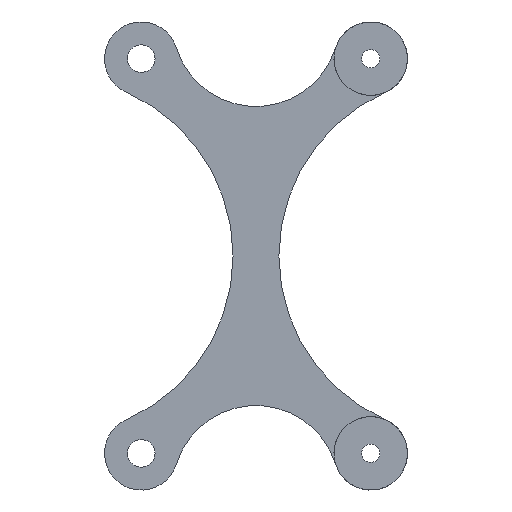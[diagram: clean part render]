
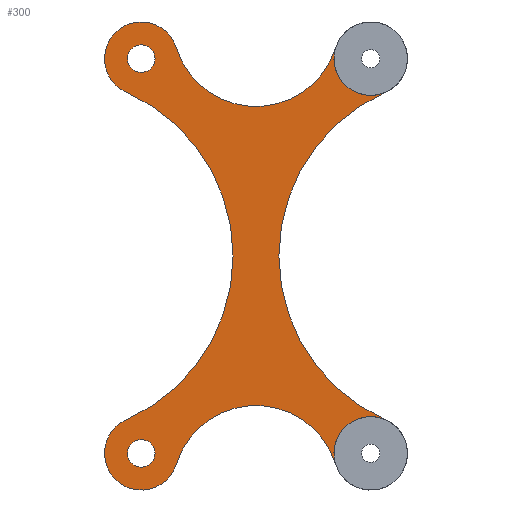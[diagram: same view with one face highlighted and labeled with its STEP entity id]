
A CAD part, front view. The second image highlights one B-rep face of the part: STEP entity #300.
In plain terms, the highlighted planar face has unit normal (0, -1, 0).
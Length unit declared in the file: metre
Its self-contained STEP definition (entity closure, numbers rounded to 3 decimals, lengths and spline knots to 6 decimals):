
#28=PLANE('',#337);
#38=ORIENTED_EDGE('',*,*,#114,.F.);
#39=ORIENTED_EDGE('',*,*,#115,.T.);
#40=ORIENTED_EDGE('',*,*,#116,.F.);
#41=ORIENTED_EDGE('',*,*,#117,.T.);
#42=ORIENTED_EDGE('',*,*,#118,.F.);
#43=ORIENTED_EDGE('',*,*,#119,.T.);
#44=ORIENTED_EDGE('',*,*,#120,.F.);
#45=ORIENTED_EDGE('',*,*,#121,.F.);
#46=ORIENTED_EDGE('',*,*,#122,.T.);
#47=ORIENTED_EDGE('',*,*,#123,.F.);
#114=EDGE_CURVE('',#152,#152,#182,.T.);
#115=EDGE_CURVE('',#153,#153,#183,.T.);
#116=EDGE_CURVE('',#154,#155,#184,.T.);
#117=EDGE_CURVE('',#154,#156,#185,.T.);
#118=EDGE_CURVE('',#157,#156,#186,.T.);
#119=EDGE_CURVE('',#157,#158,#187,.T.);
#120=EDGE_CURVE('',#159,#158,#188,.T.);
#121=EDGE_CURVE('',#160,#159,#189,.T.);
#122=EDGE_CURVE('',#160,#161,#190,.T.);
#123=EDGE_CURVE('',#155,#161,#191,.T.);
#152=VERTEX_POINT('',#504);
#153=VERTEX_POINT('',#506);
#154=VERTEX_POINT('',#508);
#155=VERTEX_POINT('',#509);
#156=VERTEX_POINT('',#511);
#157=VERTEX_POINT('',#513);
#158=VERTEX_POINT('',#515);
#159=VERTEX_POINT('',#517);
#160=VERTEX_POINT('',#519);
#161=VERTEX_POINT('',#521);
#182=CIRCLE('',#338,0.0015);
#183=CIRCLE('',#339,0.0015);
#184=CIRCLE('',#340,0.019509);
#185=CIRCLE('',#341,0.004);
#186=CIRCLE('',#342,0.009091);
#187=CIRCLE('',#343,0.004);
#188=CIRCLE('',#344,0.019509);
#189=CIRCLE('',#345,0.004);
#190=CIRCLE('',#346,0.009091);
#191=CIRCLE('',#347,0.004);
#212=EDGE_LOOP('',(#38));
#213=EDGE_LOOP('',(#39));
#214=EDGE_LOOP('',(#40,#41,#42,#43,#44,#45,#46,#47));
#250=FACE_BOUND('',#212,.T.);
#251=FACE_BOUND('',#213,.T.);
#252=FACE_BOUND('',#214,.T.);
#300=ADVANCED_FACE('',(#250,#251,#252),#28,.T.);
#337=AXIS2_PLACEMENT_3D('',#502,#395,#396);
#338=AXIS2_PLACEMENT_3D('',#503,#397,#398);
#339=AXIS2_PLACEMENT_3D('',#505,#399,#400);
#340=AXIS2_PLACEMENT_3D('',#507,#401,#402);
#341=AXIS2_PLACEMENT_3D('',#510,#403,#404);
#342=AXIS2_PLACEMENT_3D('',#512,#405,#406);
#343=AXIS2_PLACEMENT_3D('',#514,#407,#408);
#344=AXIS2_PLACEMENT_3D('',#516,#409,#410);
#345=AXIS2_PLACEMENT_3D('',#518,#411,#412);
#346=AXIS2_PLACEMENT_3D('',#520,#413,#414);
#347=AXIS2_PLACEMENT_3D('',#522,#415,#416);
#395=DIRECTION('',(0.,-1.,0.));
#396=DIRECTION('',(1.,0.,0.));
#397=DIRECTION('',(0.,-1.,0.));
#398=DIRECTION('',(1.,0.,0.));
#399=DIRECTION('',(0.,1.,0.));
#400=DIRECTION('',(1.,0.,0.));
#401=DIRECTION('',(0.,-1.,0.));
#402=DIRECTION('',(1.,0.,0.));
#403=DIRECTION('',(0.,1.,0.));
#404=DIRECTION('',(1.,0.,0.));
#405=DIRECTION('',(0.,-1.,0.));
#406=DIRECTION('',(1.,0.,0.));
#407=DIRECTION('',(0.,-1.,0.));
#408=DIRECTION('',(1.,0.,0.));
#409=DIRECTION('',(0.,-1.,0.));
#410=DIRECTION('',(1.,0.,0.));
#411=DIRECTION('',(0.,1.,0.));
#412=DIRECTION('',(1.,0.,0.));
#413=DIRECTION('',(0.,1.,0.));
#414=DIRECTION('',(1.,0.,0.));
#415=DIRECTION('',(0.,-1.,0.));
#416=DIRECTION('',(1.,0.,0.));
#502=CARTESIAN_POINT('',(-0.011624,-0.002,0.010655));
#503=CARTESIAN_POINT('',(-0.0125,-0.002,0.0215));
#504=CARTESIAN_POINT('',(-0.011,-0.002,0.0215));
#505=CARTESIAN_POINT('',(-0.0125,-0.002,-0.0215));
#506=CARTESIAN_POINT('',(-0.011,-0.002,-0.0215));
#507=CARTESIAN_POINT('',(0.022009,-0.002,0.));
#508=CARTESIAN_POINT('',(0.014118,-0.002,0.017842));
#509=CARTESIAN_POINT('',(0.014118,-0.002,-0.017842));
#510=CARTESIAN_POINT('',(0.0125,-0.002,0.0215));
#511=CARTESIAN_POINT('',(0.00868,-0.002,0.022688));
#512=CARTESIAN_POINT('',(0.,-0.002,0.025388));
#513=CARTESIAN_POINT('',(-0.00868,-0.002,0.022688));
#514=CARTESIAN_POINT('',(-0.0125,-0.002,0.0215));
#515=CARTESIAN_POINT('',(-0.014118,-0.002,0.017842));
#516=CARTESIAN_POINT('',(-0.022009,-0.002,0.));
#517=CARTESIAN_POINT('',(-0.014118,-0.002,-0.017842));
#518=CARTESIAN_POINT('',(-0.0125,-0.002,-0.0215));
#519=CARTESIAN_POINT('',(-0.00868,-0.002,-0.022688));
#520=CARTESIAN_POINT('',(0.,-0.002,-0.025388));
#521=CARTESIAN_POINT('',(0.00868,-0.002,-0.022688));
#522=CARTESIAN_POINT('',(0.0125,-0.002,-0.0215));
